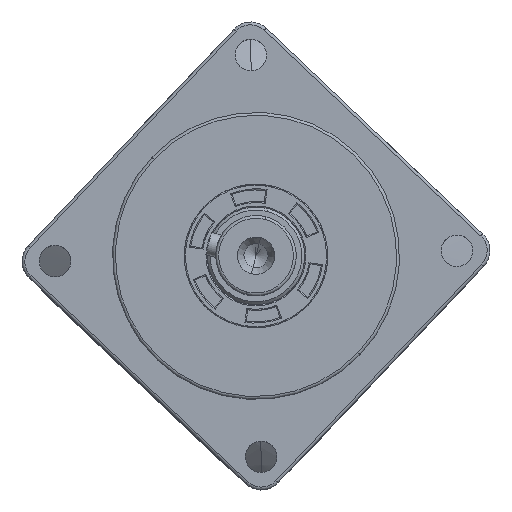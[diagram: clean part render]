
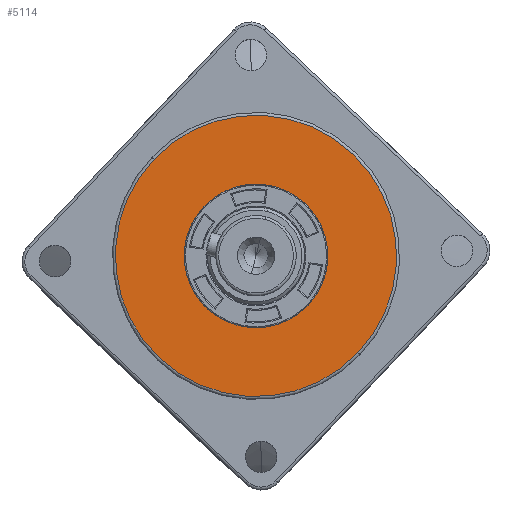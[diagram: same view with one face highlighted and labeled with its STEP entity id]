
A CAD part, top view. The second image highlights one B-rep face of the part: STEP entity #5114.
In plain terms, the highlighted planar face has unit normal (0, 0, 1) as drawn and (-1, 0, 0) by its records, which use the part's own axes.
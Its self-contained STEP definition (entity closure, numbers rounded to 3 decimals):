
#123 = AXIS2_PLACEMENT_3D ( 'NONE', #12042, #6399, #3502 ) ;
#221 = DIRECTION ( 'NONE',  ( 1., 0., 0. ) ) ;
#224 = ORIENTED_EDGE ( 'NONE', *, *, #6414, .T. ) ;
#847 = CARTESIAN_POINT ( 'NONE',  ( -3., 0., 0. ) ) ;
#1024 = DIRECTION ( 'NONE',  ( 0., 0., 1. ) ) ;
#1655 = CIRCLE ( 'NONE', #4946, 12.5 ) ;
#2083 = EDGE_LOOP ( 'NONE', ( #11221, #3068 ) ) ;
#2232 = AXIS2_PLACEMENT_3D ( 'NONE', #6374, #2583, #12055 ) ;
#2528 = CARTESIAN_POINT ( 'NONE',  ( -3., 0., -12.5 ) ) ;
#2583 = DIRECTION ( 'NONE',  ( -1., 0., 0. ) ) ;
#2658 = FACE_BOUND ( 'NONE', #2083, .T. ) ;
#2764 = DIRECTION ( 'NONE',  ( 1., 0., 0. ) ) ;
#3068 = ORIENTED_EDGE ( 'NONE', *, *, #8214, .T. ) ;
#3502 = DIRECTION ( 'NONE',  ( 0., 0., 1. ) ) ;
#3983 = VERTEX_POINT ( 'NONE', #9011 ) ;
#4606 = FACE_OUTER_BOUND ( 'NONE', #9327, .T. ) ;
#4946 = AXIS2_PLACEMENT_3D ( 'NONE', #847, #2764, #10246 ) ;
#5114 = ADVANCED_FACE ( 'NONE', ( #4606, #2658 ), #5748, .T. ) ;
#5211 = AXIS2_PLACEMENT_3D ( 'NONE', #5878, #8694, #1024 ) ;
#5250 = CARTESIAN_POINT ( 'NONE',  ( -3., 0., 0. ) ) ;
#5748 = PLANE ( 'NONE',  #5211 ) ;
#5878 = CARTESIAN_POINT ( 'NONE',  ( -3., 0., 0. ) ) ;
#6374 = CARTESIAN_POINT ( 'NONE',  ( -3., 0., 0. ) ) ;
#6399 = DIRECTION ( 'NONE',  ( -1., 0., 0. ) ) ;
#6414 = EDGE_CURVE ( 'NONE', #10643, #3983, #9435, .T. ) ;
#6929 = VERTEX_POINT ( 'NONE', #7725 ) ;
#7416 = EDGE_CURVE ( 'NONE', #7959, #6929, #1655, .T. ) ;
#7725 = CARTESIAN_POINT ( 'NONE',  ( -3., 0., 12.5 ) ) ;
#7959 = VERTEX_POINT ( 'NONE', #2528 ) ;
#8214 = EDGE_CURVE ( 'NONE', #6929, #7959, #9104, .T. ) ;
#8479 = CARTESIAN_POINT ( 'NONE',  ( -3., 0., 24.5 ) ) ;
#8692 = CIRCLE ( 'NONE', #123, 24.5 ) ;
#8694 = DIRECTION ( 'NONE',  ( -1., 0., 0. ) ) ;
#9011 = CARTESIAN_POINT ( 'NONE',  ( -3., 0., -24.5 ) ) ;
#9104 = CIRCLE ( 'NONE', #10796, 12.5 ) ;
#9327 = EDGE_LOOP ( 'NONE', ( #224, #10420 ) ) ;
#9435 = CIRCLE ( 'NONE', #2232, 24.5 ) ;
#9685 = DIRECTION ( 'NONE',  ( 0., 0., -1. ) ) ;
#10246 = DIRECTION ( 'NONE',  ( 0., 0., -1. ) ) ;
#10420 = ORIENTED_EDGE ( 'NONE', *, *, #11521, .T. ) ;
#10643 = VERTEX_POINT ( 'NONE', #8479 ) ;
#10796 = AXIS2_PLACEMENT_3D ( 'NONE', #5250, #221, #9685 ) ;
#11221 = ORIENTED_EDGE ( 'NONE', *, *, #7416, .T. ) ;
#11521 = EDGE_CURVE ( 'NONE', #3983, #10643, #8692, .T. ) ;
#12042 = CARTESIAN_POINT ( 'NONE',  ( -3., 0., 0. ) ) ;
#12055 = DIRECTION ( 'NONE',  ( 0., 0., 1. ) ) ;
